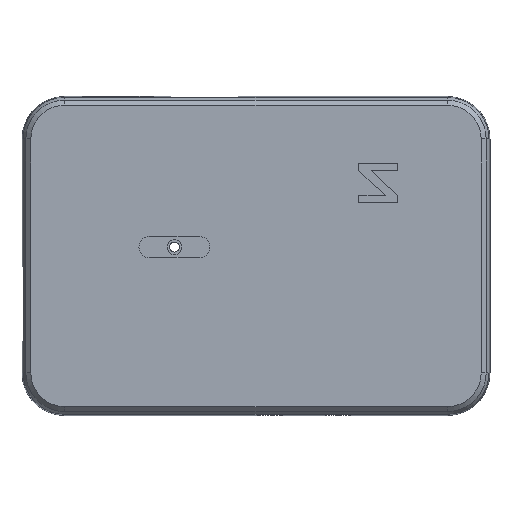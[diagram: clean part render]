
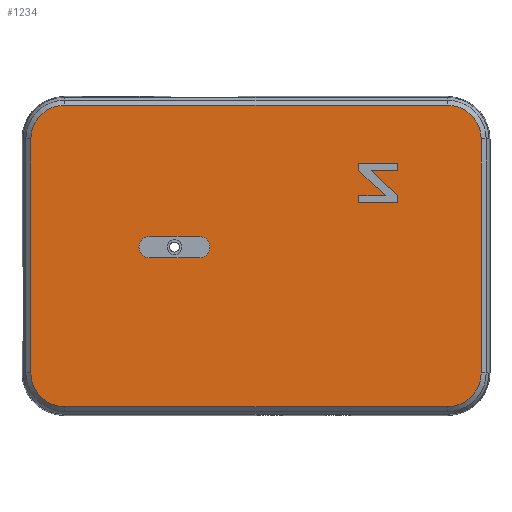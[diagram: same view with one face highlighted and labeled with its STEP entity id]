
A CAD part, top view. The second image highlights one B-rep face of the part: STEP entity #1234.
In plain terms, the highlighted planar face has unit normal (0, 0, 1).
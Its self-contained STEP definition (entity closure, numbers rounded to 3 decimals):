
#596 = VERTEX_POINT('',#597);
#597 = CARTESIAN_POINT('',(-0.5,9.,33.6));
#602 = EDGE_CURVE('',#596,#603,#605,.T.);
#603 = VERTEX_POINT('',#604);
#604 = CARTESIAN_POINT('',(9.,-0.5,33.6));
#605 = CIRCLE('',#606,9.5);
#606 = AXIS2_PLACEMENT_3D('',#607,#608,#609);
#607 = CARTESIAN_POINT('',(9.,9.,33.6));
#608 = DIRECTION('',(0.,0.,1.));
#609 = DIRECTION('',(1.,0.,-0.));
#1051 = VERTEX_POINT('',#1052);
#1052 = CARTESIAN_POINT('',(-0.5,75.,33.6));
#1057 = EDGE_CURVE('',#596,#1051,#1058,.T.);
#1058 = LINE('',#1059,#1060);
#1059 = CARTESIAN_POINT('',(-0.5,9.,33.6));
#1060 = VECTOR('',#1061,1.);
#1061 = DIRECTION('',(-0.,1.,0.));
#1234 = ADVANCED_FACE('',(#1235,#1288,#1324),#1406,.T.);
#1235 = FACE_BOUND('',#1236,.T.);
#1236 = EDGE_LOOP('',(#1237,#1238,#1246,#1255,#1263,#1272,#1280,#1287));
#1237 = ORIENTED_EDGE('',*,*,#602,.T.);
#1238 = ORIENTED_EDGE('',*,*,#1239,.T.);
#1239 = EDGE_CURVE('',#603,#1240,#1242,.T.);
#1240 = VERTEX_POINT('',#1241);
#1241 = CARTESIAN_POINT('',(117.,-0.5,33.6));
#1242 = LINE('',#1243,#1244);
#1243 = CARTESIAN_POINT('',(9.,-0.5,33.6));
#1244 = VECTOR('',#1245,1.);
#1245 = DIRECTION('',(1.,0.,-0.));
#1246 = ORIENTED_EDGE('',*,*,#1247,.T.);
#1247 = EDGE_CURVE('',#1240,#1248,#1250,.T.);
#1248 = VERTEX_POINT('',#1249);
#1249 = CARTESIAN_POINT('',(126.5,9.,33.6));
#1250 = CIRCLE('',#1251,9.5);
#1251 = AXIS2_PLACEMENT_3D('',#1252,#1253,#1254);
#1252 = CARTESIAN_POINT('',(117.,9.,33.6));
#1253 = DIRECTION('',(0.,0.,1.));
#1254 = DIRECTION('',(1.,0.,-0.));
#1255 = ORIENTED_EDGE('',*,*,#1256,.T.);
#1256 = EDGE_CURVE('',#1248,#1257,#1259,.T.);
#1257 = VERTEX_POINT('',#1258);
#1258 = CARTESIAN_POINT('',(126.5,75.,33.6));
#1259 = LINE('',#1260,#1261);
#1260 = CARTESIAN_POINT('',(126.5,9.,33.6));
#1261 = VECTOR('',#1262,1.);
#1262 = DIRECTION('',(-0.,1.,0.));
#1263 = ORIENTED_EDGE('',*,*,#1264,.T.);
#1264 = EDGE_CURVE('',#1257,#1265,#1267,.T.);
#1265 = VERTEX_POINT('',#1266);
#1266 = CARTESIAN_POINT('',(117.,84.5,33.6));
#1267 = CIRCLE('',#1268,9.5);
#1268 = AXIS2_PLACEMENT_3D('',#1269,#1270,#1271);
#1269 = CARTESIAN_POINT('',(117.,75.,33.6));
#1270 = DIRECTION('',(0.,0.,1.));
#1271 = DIRECTION('',(1.,0.,-0.));
#1272 = ORIENTED_EDGE('',*,*,#1273,.F.);
#1273 = EDGE_CURVE('',#1274,#1265,#1276,.T.);
#1274 = VERTEX_POINT('',#1275);
#1275 = CARTESIAN_POINT('',(9.,84.5,33.6));
#1276 = LINE('',#1277,#1278);
#1277 = CARTESIAN_POINT('',(9.,84.5,33.6));
#1278 = VECTOR('',#1279,1.);
#1279 = DIRECTION('',(1.,0.,-0.));
#1280 = ORIENTED_EDGE('',*,*,#1281,.T.);
#1281 = EDGE_CURVE('',#1274,#1051,#1282,.T.);
#1282 = CIRCLE('',#1283,9.5);
#1283 = AXIS2_PLACEMENT_3D('',#1284,#1285,#1286);
#1284 = CARTESIAN_POINT('',(9.,75.,33.6));
#1285 = DIRECTION('',(0.,0.,1.));
#1286 = DIRECTION('',(1.,0.,-0.));
#1287 = ORIENTED_EDGE('',*,*,#1057,.F.);
#1288 = FACE_BOUND('',#1289,.T.);
#1289 = EDGE_LOOP('',(#1290,#1301,#1309,#1318));
#1290 = ORIENTED_EDGE('',*,*,#1291,.F.);
#1291 = EDGE_CURVE('',#1292,#1294,#1296,.T.);
#1292 = VERTEX_POINT('',#1293);
#1293 = CARTESIAN_POINT('',(33.,47.5,33.6));
#1294 = VERTEX_POINT('',#1295);
#1295 = CARTESIAN_POINT('',(33.,41.5,33.6));
#1296 = CIRCLE('',#1297,3.);
#1297 = AXIS2_PLACEMENT_3D('',#1298,#1299,#1300);
#1298 = CARTESIAN_POINT('',(33.,44.5,33.6));
#1299 = DIRECTION('',(0.,0.,1.));
#1300 = DIRECTION('',(1.,0.,-0.));
#1301 = ORIENTED_EDGE('',*,*,#1302,.F.);
#1302 = EDGE_CURVE('',#1303,#1292,#1305,.T.);
#1303 = VERTEX_POINT('',#1304);
#1304 = CARTESIAN_POINT('',(47.,47.5,33.6));
#1305 = LINE('',#1306,#1307);
#1306 = CARTESIAN_POINT('',(21.,47.5,33.6));
#1307 = VECTOR('',#1308,1.);
#1308 = DIRECTION('',(-1.,-0.,0.));
#1309 = ORIENTED_EDGE('',*,*,#1310,.F.);
#1310 = EDGE_CURVE('',#1311,#1303,#1313,.T.);
#1311 = VERTEX_POINT('',#1312);
#1312 = CARTESIAN_POINT('',(47.,41.5,33.6));
#1313 = CIRCLE('',#1314,3.);
#1314 = AXIS2_PLACEMENT_3D('',#1315,#1316,#1317);
#1315 = CARTESIAN_POINT('',(47.,44.5,33.6));
#1316 = DIRECTION('',(0.,0.,1.));
#1317 = DIRECTION('',(1.,0.,-0.));
#1318 = ORIENTED_EDGE('',*,*,#1319,.T.);
#1319 = EDGE_CURVE('',#1311,#1294,#1320,.T.);
#1320 = LINE('',#1321,#1322);
#1321 = CARTESIAN_POINT('',(21.,41.5,33.6));
#1322 = VECTOR('',#1323,1.);
#1323 = DIRECTION('',(-1.,-0.,0.));
#1324 = FACE_BOUND('',#1325,.T.);
#1325 = EDGE_LOOP('',(#1326,#1336,#1344,#1352,#1360,#1368,#1376,#1384,
    #1392,#1400));
#1326 = ORIENTED_EDGE('',*,*,#1327,.T.);
#1327 = EDGE_CURVE('',#1328,#1330,#1332,.T.);
#1328 = VERTEX_POINT('',#1329);
#1329 = CARTESIAN_POINT('',(103.,59.,33.6));
#1330 = VERTEX_POINT('',#1331);
#1331 = CARTESIAN_POINT('',(103.,57.,33.6));
#1332 = LINE('',#1333,#1334);
#1333 = CARTESIAN_POINT('',(103.,33.,33.6));
#1334 = VECTOR('',#1335,1.);
#1335 = DIRECTION('',(0.,-1.,0.));
#1336 = ORIENTED_EDGE('',*,*,#1337,.T.);
#1337 = EDGE_CURVE('',#1330,#1338,#1340,.T.);
#1338 = VERTEX_POINT('',#1339);
#1339 = CARTESIAN_POINT('',(92.,57.,33.6));
#1340 = LINE('',#1341,#1342);
#1341 = CARTESIAN_POINT('',(50.5,57.,33.6));
#1342 = VECTOR('',#1343,1.);
#1343 = DIRECTION('',(-1.,0.,0.));
#1344 = ORIENTED_EDGE('',*,*,#1345,.T.);
#1345 = EDGE_CURVE('',#1338,#1346,#1348,.T.);
#1346 = VERTEX_POINT('',#1347);
#1347 = CARTESIAN_POINT('',(92.,59.,33.6));
#1348 = LINE('',#1349,#1350);
#1349 = CARTESIAN_POINT('',(92.,34.,33.6));
#1350 = VECTOR('',#1351,1.);
#1351 = DIRECTION('',(-0.,1.,0.));
#1352 = ORIENTED_EDGE('',*,*,#1353,.T.);
#1353 = EDGE_CURVE('',#1346,#1354,#1356,.T.);
#1354 = VERTEX_POINT('',#1355);
#1355 = CARTESIAN_POINT('',(99.5,59.,33.6));
#1356 = LINE('',#1357,#1358);
#1357 = CARTESIAN_POINT('',(54.25,59.,33.6));
#1358 = VECTOR('',#1359,1.);
#1359 = DIRECTION('',(1.,0.,-0.));
#1360 = ORIENTED_EDGE('',*,*,#1361,.T.);
#1361 = EDGE_CURVE('',#1354,#1362,#1364,.T.);
#1362 = VERTEX_POINT('',#1363);
#1363 = CARTESIAN_POINT('',(92.,66.,33.6));
#1364 = LINE('',#1365,#1366);
#1365 = CARTESIAN_POINT('',(84.037,73.432,33.6));
#1366 = VECTOR('',#1367,1.);
#1367 = DIRECTION('',(-0.731,0.682,0.));
#1368 = ORIENTED_EDGE('',*,*,#1369,.T.);
#1369 = EDGE_CURVE('',#1362,#1370,#1372,.T.);
#1370 = VERTEX_POINT('',#1371);
#1371 = CARTESIAN_POINT('',(92.,68.,33.6));
#1372 = LINE('',#1373,#1374);
#1373 = CARTESIAN_POINT('',(92.,38.5,33.6));
#1374 = VECTOR('',#1375,1.);
#1375 = DIRECTION('',(-0.,1.,0.));
#1376 = ORIENTED_EDGE('',*,*,#1377,.T.);
#1377 = EDGE_CURVE('',#1370,#1378,#1380,.T.);
#1378 = VERTEX_POINT('',#1379);
#1379 = CARTESIAN_POINT('',(103.,68.,33.6));
#1380 = LINE('',#1381,#1382);
#1381 = CARTESIAN_POINT('',(56.,68.,33.6));
#1382 = VECTOR('',#1383,1.);
#1383 = DIRECTION('',(1.,0.,-0.));
#1384 = ORIENTED_EDGE('',*,*,#1385,.T.);
#1385 = EDGE_CURVE('',#1378,#1386,#1388,.T.);
#1386 = VERTEX_POINT('',#1387);
#1387 = CARTESIAN_POINT('',(103.,66.,33.6));
#1388 = LINE('',#1389,#1390);
#1389 = CARTESIAN_POINT('',(103.,37.5,33.6));
#1390 = VECTOR('',#1391,1.);
#1391 = DIRECTION('',(0.,-1.,0.));
#1392 = ORIENTED_EDGE('',*,*,#1393,.T.);
#1393 = EDGE_CURVE('',#1386,#1394,#1396,.T.);
#1394 = VERTEX_POINT('',#1395);
#1395 = CARTESIAN_POINT('',(95.5,66.,33.6));
#1396 = LINE('',#1397,#1398);
#1397 = CARTESIAN_POINT('',(52.25,66.,33.6));
#1398 = VECTOR('',#1399,1.);
#1399 = DIRECTION('',(-1.,0.,0.));
#1400 = ORIENTED_EDGE('',*,*,#1401,.T.);
#1401 = EDGE_CURVE('',#1394,#1328,#1402,.T.);
#1402 = LINE('',#1403,#1404);
#1403 = CARTESIAN_POINT('',(90.352,70.805,33.6));
#1404 = VECTOR('',#1405,1.);
#1405 = DIRECTION('',(0.731,-0.682,0.));
#1406 = PLANE('',#1407);
#1407 = AXIS2_PLACEMENT_3D('',#1408,#1409,#1410);
#1408 = CARTESIAN_POINT('',(9.,9.,33.6));
#1409 = DIRECTION('',(0.,0.,1.));
#1410 = DIRECTION('',(1.,0.,-0.));
